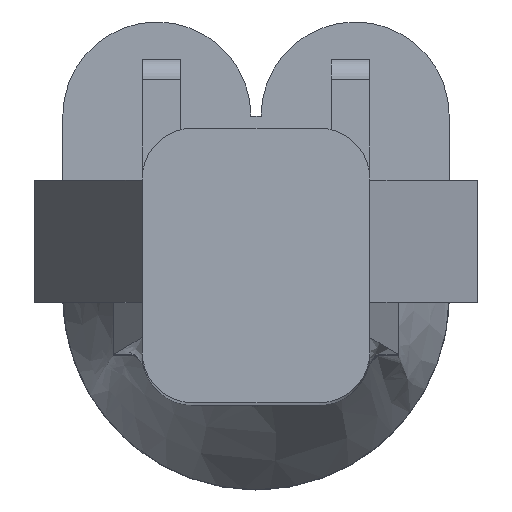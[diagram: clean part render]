
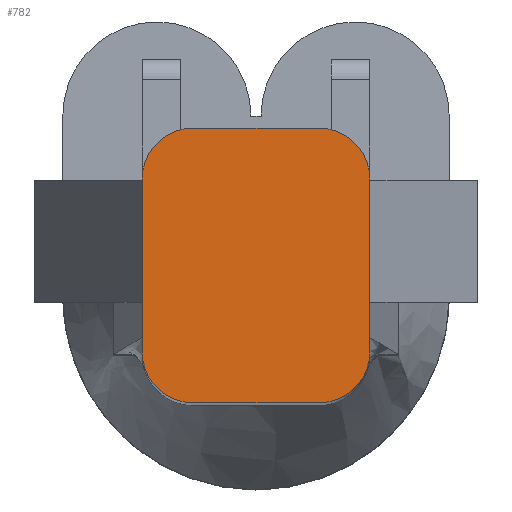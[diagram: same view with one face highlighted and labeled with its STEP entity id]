
A CAD part, top view. The second image highlights one B-rep face of the part: STEP entity #782.
In plain terms, the highlighted planar face has unit normal (0, 0, 1).
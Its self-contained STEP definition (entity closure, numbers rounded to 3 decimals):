
#782=ADVANCED_FACE('',(#1077),#1078,.F.);
#1077=FACE_OUTER_BOUND('',#1918,.T.);
#1078=PLANE('',#1919);
#1918=EDGE_LOOP('',(#2391,#2392,#2393,#2394,#2395,#2396,#2397,#2398));
#1919=AXIS2_PLACEMENT_3D('',#2399,#2400,#2401);
#2391=ORIENTED_EDGE('',*,*,#2657,.F.);
#2392=ORIENTED_EDGE('',*,*,#2658,.T.);
#2393=ORIENTED_EDGE('',*,*,#2659,.T.);
#2394=ORIENTED_EDGE('',*,*,#2628,.T.);
#2395=ORIENTED_EDGE('',*,*,#2612,.F.);
#2396=ORIENTED_EDGE('',*,*,#2655,.T.);
#2397=ORIENTED_EDGE('',*,*,#2660,.T.);
#2398=ORIENTED_EDGE('',*,*,#2661,.T.);
#2399=CARTESIAN_POINT('',(0.41,-0.675,-0.32));
#2400=DIRECTION('',(0.,0.0,-1.0));
#2401=DIRECTION('',(0.0,-1.0,0.0));
#2612=EDGE_CURVE('',#2871,#2872,#2873,.T.);
#2628=EDGE_CURVE('',#2899,#2872,#2900,.T.);
#2655=EDGE_CURVE('',#2871,#2938,#2940,.T.);
#2657=EDGE_CURVE('',#2942,#2943,#2944,.T.);
#2658=EDGE_CURVE('',#2942,#2945,#2946,.T.);
#2659=EDGE_CURVE('',#2945,#2899,#2947,.T.);
#2660=EDGE_CURVE('',#2938,#2948,#2949,.T.);
#2661=EDGE_CURVE('',#2948,#2943,#2950,.T.);
#2871=VERTEX_POINT('',#3582);
#2872=VERTEX_POINT('',#3583);
#2873=LINE('',#3584,#3585);
#2899=VERTEX_POINT('',#3622);
#2900=CIRCLE('',#3623,0.25);
#2938=VERTEX_POINT('',#3680);
#2940=CIRCLE('',#3683,0.25);
#2942=VERTEX_POINT('',#3686);
#2943=VERTEX_POINT('',#3687);
#2944=LINE('',#3688,#3689);
#2945=VERTEX_POINT('',#3690);
#2946=CIRCLE('',#3691,0.25);
#2947=LINE('',#3692,#3693);
#2948=VERTEX_POINT('',#3694);
#2949=LINE('',#3695,#3696);
#2950=CIRCLE('',#3697,0.25);
#3582=CARTESIAN_POINT('',(-0.31,0.675,-0.32));
#3583=CARTESIAN_POINT('',(0.31,0.675,-0.32));
#3584=CARTESIAN_POINT('',(-0.56,0.675,-0.32));
#3585=VECTOR('',#3855,1.0);
#3622=CARTESIAN_POINT('',(0.56,0.425,-0.32));
#3623=AXIS2_PLACEMENT_3D('',#3879,#3880,#3881);
#3680=CARTESIAN_POINT('',(-0.56,0.425,-0.32));
#3683=AXIS2_PLACEMENT_3D('',#3920,#3921,#3922);
#3686=CARTESIAN_POINT('',(0.31,-0.675,-0.32));
#3687=CARTESIAN_POINT('',(-0.31,-0.675,-0.32));
#3688=CARTESIAN_POINT('',(0.56,-0.675,-0.32));
#3689=VECTOR('',#3924,1.0);
#3690=CARTESIAN_POINT('',(0.56,-0.425,-0.32));
#3691=AXIS2_PLACEMENT_3D('',#3925,#3926,#3927);
#3692=CARTESIAN_POINT('',(0.56,-0.425,-0.32));
#3693=VECTOR('',#3928,1.0);
#3694=CARTESIAN_POINT('',(-0.56,-0.425,-0.32));
#3695=CARTESIAN_POINT('',(-0.56,-0.425,-0.32));
#3696=VECTOR('',#3929,1.0);
#3697=AXIS2_PLACEMENT_3D('',#3930,#3931,#3932);
#3855=DIRECTION('',(1.0,0.0,0.0));
#3879=CARTESIAN_POINT('',(0.31,0.425,-0.32));
#3880=DIRECTION('',(0.,0.0,1.0));
#3881=DIRECTION('',(-1.0,0.0,0.));
#3920=CARTESIAN_POINT('',(-0.31,0.425,-0.32));
#3921=DIRECTION('',(0.,0.0,1.0));
#3922=DIRECTION('',(-1.0,0.0,0.));
#3924=DIRECTION('',(-1.0,0.0,0.0));
#3925=CARTESIAN_POINT('',(0.31,-0.425,-0.32));
#3926=DIRECTION('',(0.,0.0,1.0));
#3927=DIRECTION('',(-1.0,0.0,0.));
#3928=DIRECTION('',(0.0,1.0,0.0));
#3929=DIRECTION('',(0.0,-1.0,0.0));
#3930=CARTESIAN_POINT('',(-0.31,-0.425,-0.32));
#3931=DIRECTION('',(0.,0.0,1.0));
#3932=DIRECTION('',(-1.0,0.0,0.));
